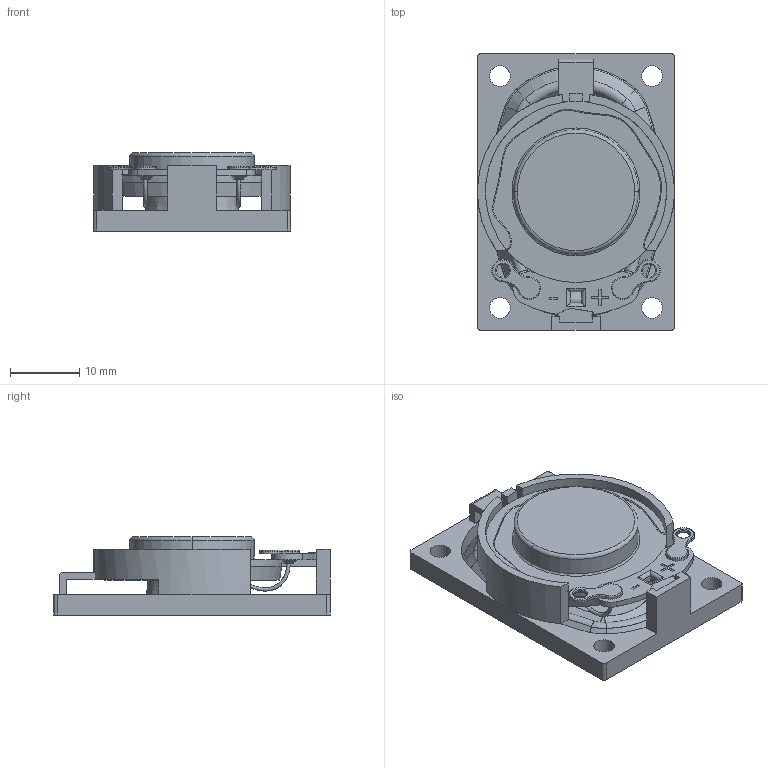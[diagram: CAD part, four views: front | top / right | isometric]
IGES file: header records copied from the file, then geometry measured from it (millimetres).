
Global section: file name: No Iges File Name specified; native system: AutoDesk Inventor R12.0; preprocessor: AutoDesk Inventor Iges Exporter R12.0; date: 20090220.154645; units: inch
Bounding box: 28.5 x 40 x 11.3 mm (x, y, z)
Volume: 4644.4 mm3; surface area: 5900.4 mm2
Topology: 1 solids, 1 shells, 298 faces, 729 edges, 427 vertices
Faces by surface type: plane 85, revolution 60, torus 48, bspline 43, cone 32, cylinder 28, sphere 2
